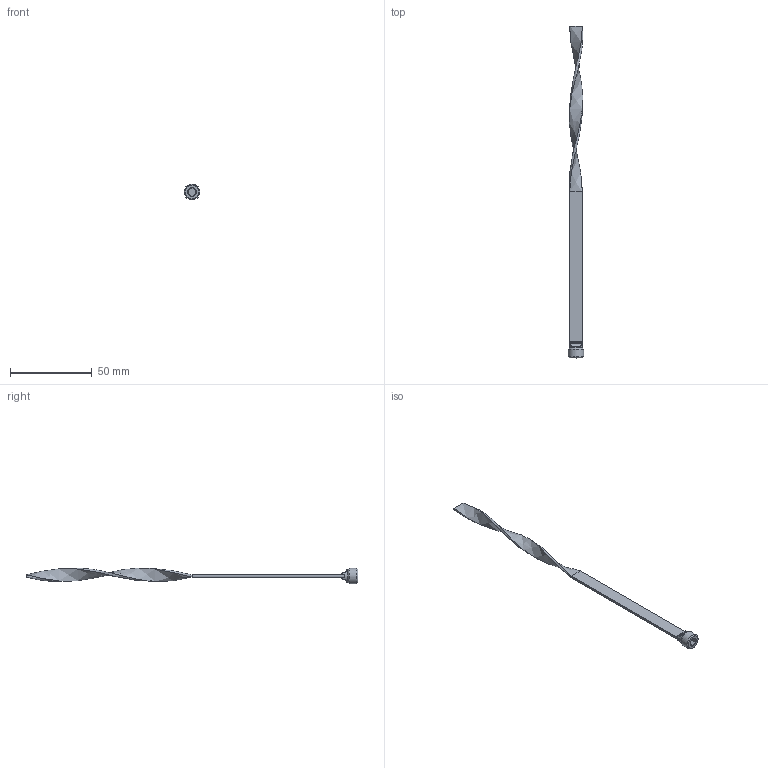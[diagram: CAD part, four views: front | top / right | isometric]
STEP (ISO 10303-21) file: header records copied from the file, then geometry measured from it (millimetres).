
FILE_DESCRIPTION(/* description */ (''),/* implementation_level */ '2;1');
FILE_NAME(/* name */ 'C:/Users/drich/Desktop/TB18X8BSP v1.step',/* time_stamp */ '2020-01-14T09:25:19-06:00',/* author */ (''),/* organization */ (''),/* preprocessor_version */ 'ST-DEVELOPER v18',/* originating_system */ 'Autodesk Translation Framework v8.12.0.6',/* authorisation */ '');
FILE_SCHEMA (('AUTOMOTIVE_DESIGN { 1 0 10303 214 3 1 1 }'));
Length unit declared in the file: inch
Products named in the file (1): TB18X8BSP
Bounding box: 9.62 x 203.2 x 9.65 mm (x, y, z)
Volume: 2650.6 mm3; surface area: 4053.7 mm2
Topology: 2 solids, 2 shells, 41 faces, 112 edges, 76 vertices
Faces by surface type: plane 21, cylinder 8, torus 5, bspline 4, cone 3
Full cylindrical faces by diameter (mm): 7.772 x1, 9.621 x1
Entity records: 1614 total; most frequent: CARTESIAN_POINT 582, ORIENTED_EDGE 224, DIRECTION 187, EDGE_CURVE 112, VERTEX_POINT 76, AXIS2_PLACEMENT_3D 69, LINE 49, VECTOR 49
